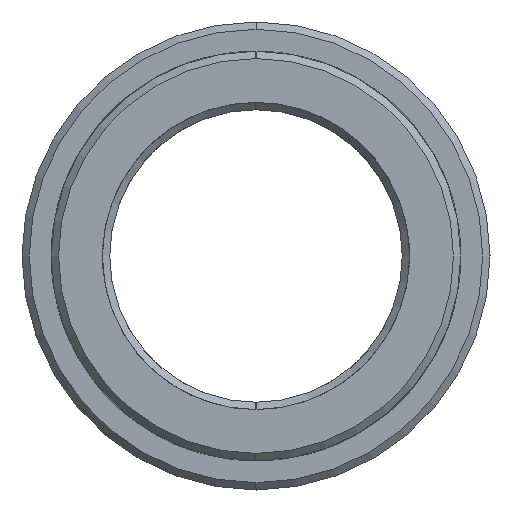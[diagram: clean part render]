
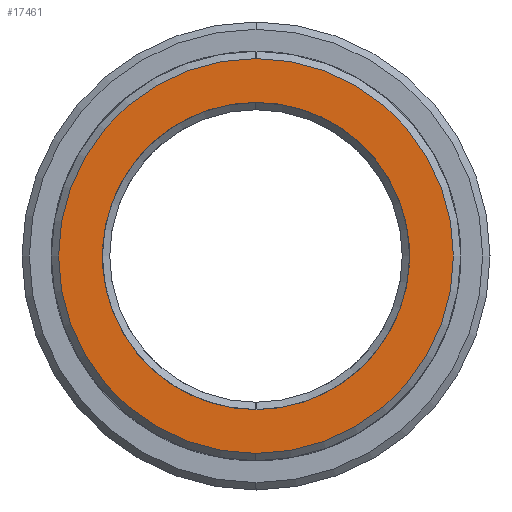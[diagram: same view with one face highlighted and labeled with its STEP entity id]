
A CAD part, left-side view. The second image highlights one B-rep face of the part: STEP entity #17461.
In plain terms, the highlighted planar face has unit normal (1, 0, 0).
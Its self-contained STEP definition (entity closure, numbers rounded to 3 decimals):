
#17378=CARTESIAN_POINT('Axis2P3D Location',(-15.,0.,0.)) ;
#17383=CARTESIAN_POINT('Axis2P3D Location',(-15.,0.,0.)) ;
#17387=CARTESIAN_POINT('Vertex',(-15.,0.,-13.5)) ;
#17389=CARTESIAN_POINT('Vertex',(-15.,0.,13.5)) ;
#17392=CARTESIAN_POINT('Axis2P3D Location',(-15.,0.,0.)) ;
#17402=CARTESIAN_POINT('Control Point',(-15.,0.,10.5)) ;
#17403=CARTESIAN_POINT('Control Point',(-15.,0.952,10.5)) ;
#17404=CARTESIAN_POINT('Control Point',(-15.,1.905,10.392)) ;
#17405=CARTESIAN_POINT('Control Point',(-15.,2.841,10.176)) ;
#17406=CARTESIAN_POINT('Control Point',(-15.,4.648,9.535)) ;
#17407=CARTESIAN_POINT('Control Point',(-15.,6.266,8.507)) ;
#17408=CARTESIAN_POINT('Control Point',(-15.,7.013,7.902)) ;
#17409=CARTESIAN_POINT('Control Point',(-15.,8.356,6.535)) ;
#17410=CARTESIAN_POINT('Control Point',(-15.,9.36,4.901)) ;
#17411=CARTESIAN_POINT('Control Point',(-15.,9.766,4.031)) ;
#17412=CARTESIAN_POINT('Control Point',(-15.,10.375,2.213)) ;
#17413=CARTESIAN_POINT('Control Point',(-15.,10.561,0.305)) ;
#17414=CARTESIAN_POINT('Control Point',(-15.,10.545,-0.656)) ;
#17415=CARTESIAN_POINT('Control Point',(-15.,10.295,-2.557)) ;
#17416=CARTESIAN_POINT('Control Point',(-15.,9.626,-4.354)) ;
#17417=CARTESIAN_POINT('Control Point',(-15.,9.191,-5.21)) ;
#17418=CARTESIAN_POINT('Control Point',(-15.,8.134,-6.809)) ;
#17419=CARTESIAN_POINT('Control Point',(-15.,6.746,-8.131)) ;
#17420=CARTESIAN_POINT('Control Point',(-15.,5.979,-8.711)) ;
#17421=CARTESIAN_POINT('Control Point',(-15.,4.389,-9.649)) ;
#17422=CARTESIAN_POINT('Control Point',(-15.,2.635,-10.222)) ;
#17423=CARTESIAN_POINT('Control Point',(-15.,1.765,-10.407)) ;
#17424=CARTESIAN_POINT('Control Point',(-15.,0.883,-10.5)) ;
#17425=CARTESIAN_POINT('Control Point',(-15.,0.,-10.5)) ;
#17426=CARTESIAN_POINT('Vertex',(-15.,0.,10.5)) ;
#17428=CARTESIAN_POINT('Vertex',(-15.,0.,-10.5)) ;
#17432=CARTESIAN_POINT('Control Point',(-15.,0.,-10.5)) ;
#17433=CARTESIAN_POINT('Control Point',(-15.,-0.952,-10.5)) ;
#17434=CARTESIAN_POINT('Control Point',(-15.,-1.905,-10.392)) ;
#17435=CARTESIAN_POINT('Control Point',(-15.,-2.841,-10.176)) ;
#17436=CARTESIAN_POINT('Control Point',(-15.,-4.648,-9.535)) ;
#17437=CARTESIAN_POINT('Control Point',(-15.,-6.266,-8.507)) ;
#17438=CARTESIAN_POINT('Control Point',(-15.,-7.013,-7.902)) ;
#17439=CARTESIAN_POINT('Control Point',(-15.,-8.356,-6.535)) ;
#17440=CARTESIAN_POINT('Control Point',(-15.,-9.36,-4.901)) ;
#17441=CARTESIAN_POINT('Control Point',(-15.,-9.766,-4.031)) ;
#17442=CARTESIAN_POINT('Control Point',(-15.,-10.375,-2.213)) ;
#17443=CARTESIAN_POINT('Control Point',(-15.,-10.561,-0.305)) ;
#17444=CARTESIAN_POINT('Control Point',(-15.,-10.545,0.656)) ;
#17445=CARTESIAN_POINT('Control Point',(-15.,-10.295,2.557)) ;
#17446=CARTESIAN_POINT('Control Point',(-15.,-9.626,4.354)) ;
#17447=CARTESIAN_POINT('Control Point',(-15.,-9.191,5.21)) ;
#17448=CARTESIAN_POINT('Control Point',(-15.,-8.134,6.809)) ;
#17449=CARTESIAN_POINT('Control Point',(-15.,-6.746,8.131)) ;
#17450=CARTESIAN_POINT('Control Point',(-15.,-5.979,8.711)) ;
#17451=CARTESIAN_POINT('Control Point',(-15.,-4.389,9.649)) ;
#17452=CARTESIAN_POINT('Control Point',(-15.,-2.635,10.222)) ;
#17453=CARTESIAN_POINT('Control Point',(-15.,-1.765,10.407)) ;
#17454=CARTESIAN_POINT('Control Point',(-15.,-0.883,10.5)) ;
#17455=CARTESIAN_POINT('Control Point',(-15.,0.,10.5)) ;
#17379=DIRECTION('Axis2P3D Direction',(1.,0.,0.)) ;
#17380=DIRECTION('Axis2P3D XDirection',(0.,1.,0.)) ;
#17384=DIRECTION('Axis2P3D Direction',(1.,0.,0.)) ;
#17393=DIRECTION('Axis2P3D Direction',(1.,0.,0.)) ;
#17381=AXIS2_PLACEMENT_3D('Plane Axis2P3D',#17378,#17379,#17380) ;
#17385=AXIS2_PLACEMENT_3D('Circle Axis2P3D',#17383,#17384,$) ;
#17394=AXIS2_PLACEMENT_3D('Circle Axis2P3D',#17392,#17393,$) ;
#17398=ORIENTED_EDGE('',*,*,#17391,.T.) ;
#17399=ORIENTED_EDGE('',*,*,#17396,.T.) ;
#17458=ORIENTED_EDGE('',*,*,#17430,.T.) ;
#17459=ORIENTED_EDGE('',*,*,#17456,.T.) ;
#17460=FACE_BOUND('',#17457,.T.) ;
#17461=ADVANCED_FACE('MANIFOLD_SOLID_BREP #9383',(#17400,#17460),#17382,.T.) ;
#17401=B_SPLINE_CURVE_WITH_KNOTS('',5,(#17402,#17403,#17404,#17405,#17406,#17407,#17408,#17409,#17410,#17411,#17412,#17413,#17414,#17415,#17416,#17417,#17418,#17419,#17420,#17421,#17422,#17423,#17424,#17425),.UNSPECIFIED.,.F.,.U.,(6,3,3,3,3,3,3,6),(0.,6.735,13.47,20.205,26.94,33.675,40.41,46.65),.UNSPECIFIED.) ;
#17431=B_SPLINE_CURVE_WITH_KNOTS('',5,(#17432,#17433,#17434,#17435,#17436,#17437,#17438,#17439,#17440,#17441,#17442,#17443,#17444,#17445,#17446,#17447,#17448,#17449,#17450,#17451,#17452,#17453,#17454,#17455),.UNSPECIFIED.,.F.,.U.,(6,3,3,3,3,3,3,6),(0.,6.735,13.47,20.205,26.94,33.675,40.41,46.65),.UNSPECIFIED.) ;
#17386=CIRCLE('generated circle',#17385,13.5) ;
#17395=CIRCLE('generated circle',#17394,13.5) ;
#17391=EDGE_CURVE('',#17388,#17390,#17386,.T.) ;
#17396=EDGE_CURVE('',#17390,#17388,#17395,.T.) ;
#17430=EDGE_CURVE('',#17427,#17429,#17401,.T.) ;
#17456=EDGE_CURVE('',#17429,#17427,#17431,.T.) ;
#17397=EDGE_LOOP('',(#17398,#17399)) ;
#17457=EDGE_LOOP('',(#17458,#17459)) ;
#17400=FACE_OUTER_BOUND('',#17397,.T.) ;
#17382=PLANE('Plane',#17381) ;
#17388=VERTEX_POINT('',#17387) ;
#17390=VERTEX_POINT('',#17389) ;
#17427=VERTEX_POINT('',#17426) ;
#17429=VERTEX_POINT('',#17428) ;
